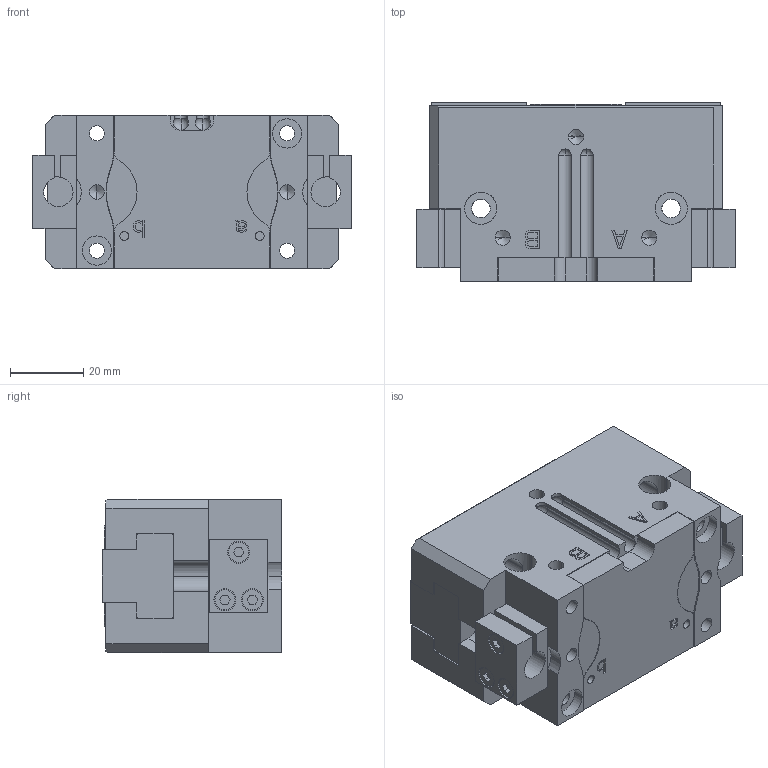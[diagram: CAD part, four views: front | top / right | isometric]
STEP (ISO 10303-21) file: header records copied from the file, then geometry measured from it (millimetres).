
FILE_DESCRIPTION (( 'STEP AP214' ), '1' );
FILE_NAME ('FPT-80A-1.STEP', '2020-07-06T07:39:37', ( '' ), ( '' ), 'SwSTEP 2.0', 'SolidWorks 2016', '' );
FILE_SCHEMA (( 'AUTOMOTIVE_DESIGN' ));
Length unit declared in the file: millimetre
Products named in the file (7): FPT-80A-1; NAUO8; NAUO4; NAUO7; NAUO3; NAUO1; NAUO2
Assembly tree (8 placements, depth 2):
  FPT-80A-1
    NAUO1
    NAUO2
    NAUO3
    NAUO4  x2
    NAUO7
    NAUO8  x2
Bounding box: 87 x 49 x 42 mm (x, y, z)
Volume: 137508.1 mm3; surface area: 46980.7 mm2
Topology: 8 solids, 8 shells, 631 faces, 1664 edges, 1073 vertices
Faces by surface type: plane 384, cylinder 179, cone 64, sphere 4
Entity records: 17464 total; most frequent: CARTESIAN_POINT 3460, DIRECTION 2864, ORIENTED_EDGE 2820, EDGE_CURVE 1410, LINE 1018, VECTOR 1018, VERTEX_POINT 935, AXIS2_PLACEMENT_3D 923
